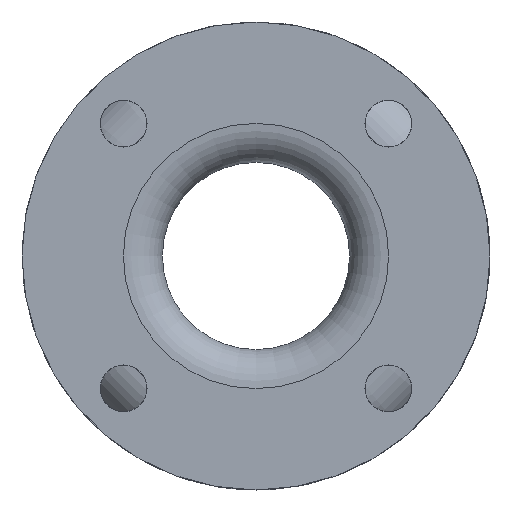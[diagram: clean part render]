
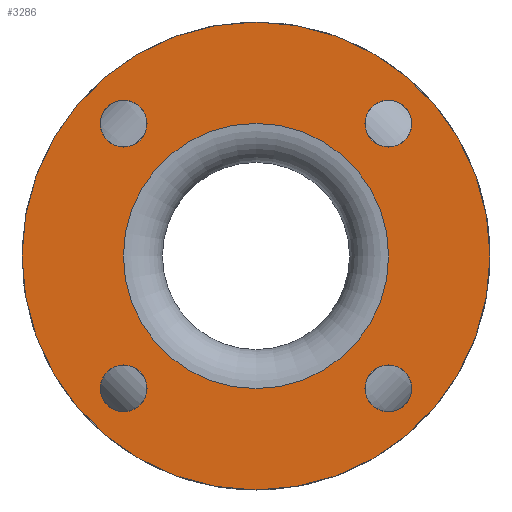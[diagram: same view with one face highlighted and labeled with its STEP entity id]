
A CAD part, left-side view. The second image highlights one B-rep face of the part: STEP entity #3286.
In plain terms, the highlighted planar face has unit normal (-1, 0, 0).
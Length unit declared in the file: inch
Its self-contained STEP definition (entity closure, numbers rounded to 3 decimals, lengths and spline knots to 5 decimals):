
#69=FACE_BOUND('',#597,.T.);
#70=FACE_BOUND('',#598,.T.);
#71=FACE_BOUND('',#599,.T.);
#72=FACE_BOUND('',#600,.T.);
#73=FACE_BOUND('',#601,.T.);
#365=FACE_OUTER_BOUND('',#596,.T.);
#596=EDGE_LOOP('',(#2502));
#597=EDGE_LOOP('',(#2503));
#598=EDGE_LOOP('',(#2504));
#599=EDGE_LOOP('',(#2505));
#600=EDGE_LOOP('',(#2506));
#601=EDGE_LOOP('',(#2507));
#1175=CIRCLE('',#3559,0.375);
#1177=CIRCLE('',#3562,0.375);
#1179=CIRCLE('',#3565,0.375);
#1181=CIRCLE('',#3568,0.375);
#1205=CIRCLE('',#3611,2.125);
#1206=CIRCLE('',#3613,3.75);
#1461=VERTEX_POINT('',#5391);
#1463=VERTEX_POINT('',#5396);
#1465=VERTEX_POINT('',#5401);
#1467=VERTEX_POINT('',#5406);
#1491=VERTEX_POINT('',#5473);
#1492=VERTEX_POINT('',#5476);
#1835=EDGE_CURVE('',#1461,#1461,#1175,.T.);
#1837=EDGE_CURVE('',#1463,#1463,#1177,.T.);
#1839=EDGE_CURVE('',#1465,#1465,#1179,.T.);
#1841=EDGE_CURVE('',#1467,#1467,#1181,.T.);
#1865=EDGE_CURVE('',#1491,#1491,#1205,.T.);
#1866=EDGE_CURVE('',#1492,#1492,#1206,.T.);
#2502=ORIENTED_EDGE('',*,*,#1866,.F.);
#2503=ORIENTED_EDGE('',*,*,#1865,.T.);
#2504=ORIENTED_EDGE('',*,*,#1835,.T.);
#2505=ORIENTED_EDGE('',*,*,#1837,.T.);
#2506=ORIENTED_EDGE('',*,*,#1839,.T.);
#2507=ORIENTED_EDGE('',*,*,#1841,.T.);
#2972=PLANE('',#3612);
#3286=ADVANCED_FACE('',(#365,#69,#70,#71,#72,#73),#2972,.T.);
#3559=AXIS2_PLACEMENT_3D('',#5392,#4261,#4262);
#3562=AXIS2_PLACEMENT_3D('',#5397,#4267,#4268);
#3565=AXIS2_PLACEMENT_3D('',#5402,#4273,#4274);
#3568=AXIS2_PLACEMENT_3D('',#5407,#4279,#4280);
#3611=AXIS2_PLACEMENT_3D('',#5474,#4365,#4366);
#3612=AXIS2_PLACEMENT_3D('',#5475,#4367,#4368);
#3613=AXIS2_PLACEMENT_3D('',#5477,#4369,#4370);
#4261=DIRECTION('center_axis',(1.,0.,0.));
#4262=DIRECTION('ref_axis',(0.,0.,
1.));
#4267=DIRECTION('center_axis',(1.,0.,0.));
#4268=DIRECTION('ref_axis',(0.,1.,0.));
#4273=DIRECTION('center_axis',(1.,0.,0.));
#4274=DIRECTION('ref_axis',(0.,0.,
-1.));
#4279=DIRECTION('center_axis',(1.,0.,0.));
#4280=DIRECTION('ref_axis',(0.,-1.,0.));
#4365=DIRECTION('center_axis',(1.,0.,0.));
#4366=DIRECTION('ref_axis',(0.,0.,-1.));
#4367=DIRECTION('center_axis',(-1.,0.,0.));
#4368=DIRECTION('ref_axis',(0.,0.,1.));
#4369=DIRECTION('center_axis',(1.,0.,0.));
#4370=DIRECTION('ref_axis',(0.,0.,-1.));
#5391=CARTESIAN_POINT('',(-7.,-2.12132,-2.49632));
#5392=CARTESIAN_POINT('Origin',(-7.,-2.12132,-2.12132));
#5396=CARTESIAN_POINT('',(-7.,-2.49632,2.12132));
#5397=CARTESIAN_POINT('Origin',(-7.,-2.12132,2.12132));
#5401=CARTESIAN_POINT('',(-7.,2.12132,2.49632));
#5402=CARTESIAN_POINT('Origin',(-7.,2.12132,2.12132));
#5406=CARTESIAN_POINT('',(-7.,2.49632,-2.12132));
#5407=CARTESIAN_POINT('Origin',(-7.,2.12132,-2.12132));
#5473=CARTESIAN_POINT('',(-7.,2.125,0.));
#5474=CARTESIAN_POINT('Origin',(-7.,0.,0.));
#5475=CARTESIAN_POINT('Origin',(-7.,3.75,0.));
#5476=CARTESIAN_POINT('',(-7.,3.75,0.));
#5477=CARTESIAN_POINT('Origin',(-7.,0.,0.));
